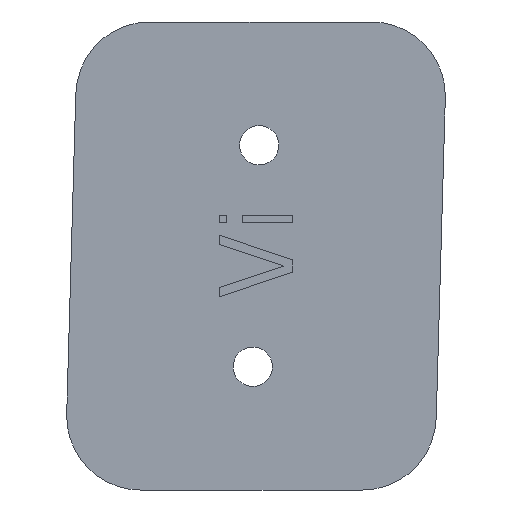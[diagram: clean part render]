
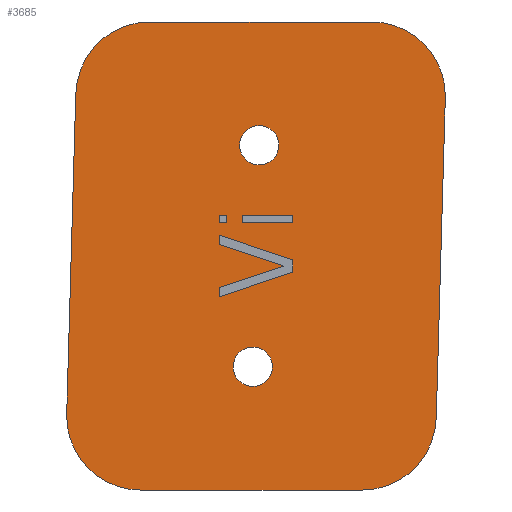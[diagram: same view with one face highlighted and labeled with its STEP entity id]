
A CAD part, front view. The second image highlights one B-rep face of the part: STEP entity #3685.
In plain terms, the highlighted planar face has unit normal (0, -1, 0).
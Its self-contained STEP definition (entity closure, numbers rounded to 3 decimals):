
#1076=DIRECTION('',(-0.028,0.,-1.));
#1077=VECTOR('',#1076,26.01);
#1078=CARTESIAN_POINT('',(-14.633,-22.25,13.17));
#1079=LINE('',#1078,#1077);
#1080=CARTESIAN_POINT('',(-8.635,-22.25,13.));
#1081=DIRECTION('',(0.,-1.,0.));
#1082=DIRECTION('',(0.,0.,1.));
#1083=AXIS2_PLACEMENT_3D('',#1080,#1081,#1082);
#1085=DIRECTION('',(-1.,0.,0.));
#1086=VECTOR('',#1085,18.007);
#1087=CARTESIAN_POINT('',(9.372,-22.25,19.));
#1088=LINE('',#1087,#1086);
#1089=CARTESIAN_POINT('',(9.372,-22.25,13.));
#1090=DIRECTION('',(0.,-1.,0.));
#1091=DIRECTION('',(1.,0.,-0.028));
#1092=AXIS2_PLACEMENT_3D('',#1089,#1090,#1091);
#1094=DIRECTION('',(0.028,0.,1.));
#1095=VECTOR('',#1094,26.01);
#1096=CARTESIAN_POINT('',(14.633,-22.25,-13.17));
#1097=LINE('',#1096,#1095);
#1098=CARTESIAN_POINT('',(8.635,-22.25,-13.));
#1099=DIRECTION('',(0.,-1.,0.));
#1100=DIRECTION('',(0.,0.,-1.));
#1101=AXIS2_PLACEMENT_3D('',#1098,#1099,#1100);
#1103=DIRECTION('',(1.,0.,0.));
#1104=VECTOR('',#1103,18.007);
#1105=CARTESIAN_POINT('',(-9.372,-22.25,-19.));
#1106=LINE('',#1105,#1104);
#1107=CARTESIAN_POINT('',(-9.372,-22.25,-13.));
#1108=DIRECTION('',(0.,-1.,0.));
#1109=DIRECTION('',(-1.,0.,0.028));
#1110=AXIS2_PLACEMENT_3D('',#1107,#1108,#1109);
#1112=CARTESIAN_POINT('',(-0.255,-22.25,-8.996));
#1113=DIRECTION('',(0.,-1.,0.));
#1114=DIRECTION('',(1.,0.,0.));
#1115=AXIS2_PLACEMENT_3D('',#1112,#1113,#1114);
#1117=CARTESIAN_POINT('',(-0.255,-22.25,-8.996));
#1118=DIRECTION('',(0.,-1.,0.));
#1119=DIRECTION('',(-1.,0.,0.));
#1120=AXIS2_PLACEMENT_3D('',#1117,#1118,#1119);
#1122=CARTESIAN_POINT('',(0.255,-22.25,8.996));
#1123=DIRECTION('',(0.,-1.,0.));
#1124=DIRECTION('',(1.,0.,0.));
#1125=AXIS2_PLACEMENT_3D('',#1122,#1123,#1124);
#1127=CARTESIAN_POINT('',(0.255,-22.25,8.996));
#1128=DIRECTION('',(0.,-1.,0.));
#1129=DIRECTION('',(-1.,0.,0.));
#1130=AXIS2_PLACEMENT_3D('',#1127,#1128,#1129);
#1132=DIRECTION('',(-0.948,0.,-0.317));
#1133=VECTOR('',#1132,5.519);
#1134=CARTESIAN_POINT('',(2.234,-22.25,-0.813));
#1135=LINE('',#1134,#1133);
#1136=DIRECTION('',(0.,0.,-1.));
#1137=VECTOR('',#1136,0.75);
#1138=CARTESIAN_POINT('',(-3.,-22.25,-2.563));
#1139=LINE('',#1138,#1137);
#1140=DIRECTION('',(0.949,0.,0.316));
#1141=VECTOR('',#1140,6.325);
#1142=CARTESIAN_POINT('',(-3.,-22.25,-3.313));
#1143=LINE('',#1142,#1141);
#1144=DIRECTION('',(0.,0.,1.));
#1145=VECTOR('',#1144,1.);
#1146=CARTESIAN_POINT('',(3.,-22.25,-1.312));
#1147=LINE('',#1146,#1145);
#1148=DIRECTION('',(-0.949,0.,0.316));
#1149=VECTOR('',#1148,6.325);
#1150=CARTESIAN_POINT('',(3.,-22.25,-0.313));
#1151=LINE('',#1150,#1149);
#1152=DIRECTION('',(0.,0.,-1.));
#1153=VECTOR('',#1152,0.75);
#1154=CARTESIAN_POINT('',(-3.,-22.25,1.687));
#1155=LINE('',#1154,#1153);
#1156=DIRECTION('',(0.948,0.,-0.317));
#1157=VECTOR('',#1156,5.519);
#1158=CARTESIAN_POINT('',(-3.,-22.25,0.937));
#1159=LINE('',#1158,#1157);
#1160=DIRECTION('',(-1.,0.,0.));
#1161=VECTOR('',#1160,4.085);
#1162=CARTESIAN_POINT('',(3.,-22.25,3.312));
#1163=LINE('',#1162,#1161);
#1164=DIRECTION('',(0.,0.,-1.));
#1165=VECTOR('',#1164,0.625);
#1166=CARTESIAN_POINT('',(-1.085,-22.25,3.312));
#1167=LINE('',#1166,#1165);
#1168=DIRECTION('',(1.,0.,0.));
#1169=VECTOR('',#1168,4.085);
#1170=CARTESIAN_POINT('',(-1.085,-22.25,2.688));
#1171=LINE('',#1170,#1169);
#1172=DIRECTION('',(0.,0.,1.));
#1173=VECTOR('',#1172,0.625);
#1174=CARTESIAN_POINT('',(3.,-22.25,2.688));
#1175=LINE('',#1174,#1173);
#1176=DIRECTION('',(-1.,0.,0.));
#1177=VECTOR('',#1176,0.638);
#1178=CARTESIAN_POINT('',(-2.362,-22.25,3.312));
#1179=LINE('',#1178,#1177);
#1180=DIRECTION('',(0.,0.,-1.));
#1181=VECTOR('',#1180,0.625);
#1182=CARTESIAN_POINT('',(-3.,-22.25,3.312));
#1183=LINE('',#1182,#1181);
#1184=DIRECTION('',(1.,0.,0.));
#1185=VECTOR('',#1184,0.638);
#1186=CARTESIAN_POINT('',(-3.,-22.25,2.688));
#1187=LINE('',#1186,#1185);
#1188=DIRECTION('',(0.,0.,1.));
#1189=VECTOR('',#1188,0.625);
#1190=CARTESIAN_POINT('',(-2.362,-22.25,2.688));
#1191=LINE('',#1190,#1189);
#1521=CARTESIAN_POINT('',(2.234,-22.25,-0.813));
#1522=CARTESIAN_POINT('',(-3.,-22.25,-2.563));
#1523=VERTEX_POINT('',#1521);
#1524=VERTEX_POINT('',#1522);
#1525=CARTESIAN_POINT('',(-3.,-22.25,-3.313));
#1526=VERTEX_POINT('',#1525);
#1527=CARTESIAN_POINT('',(3.,-22.25,-1.312));
#1528=VERTEX_POINT('',#1527);
#1529=CARTESIAN_POINT('',(3.,-22.25,-0.313));
#1530=VERTEX_POINT('',#1529);
#1539=CARTESIAN_POINT('',(3.,-22.25,3.312));
#1540=CARTESIAN_POINT('',(-1.085,-22.25,3.312));
#1541=VERTEX_POINT('',#1539);
#1542=VERTEX_POINT('',#1540);
#1543=CARTESIAN_POINT('',(-1.085,-22.25,2.688));
#1544=VERTEX_POINT('',#1543);
#1545=CARTESIAN_POINT('',(3.,-22.25,2.688));
#1546=VERTEX_POINT('',#1545);
#1547=CARTESIAN_POINT('',(1.345,-22.25,-8.996));
#1548=CARTESIAN_POINT('',(-1.855,-22.25,-8.996));
#1549=VERTEX_POINT('',#1547);
#1550=VERTEX_POINT('',#1548);
#1559=CARTESIAN_POINT('',(1.855,-22.25,8.996));
#1560=CARTESIAN_POINT('',(-1.345,-22.25,8.996));
#1561=VERTEX_POINT('',#1559);
#1562=VERTEX_POINT('',#1560);
#1675=CARTESIAN_POINT('',(-3.,-22.25,1.687));
#1676=VERTEX_POINT('',#1675);
#1677=CARTESIAN_POINT('',(-3.,-22.25,0.937));
#1678=VERTEX_POINT('',#1677);
#1679=CARTESIAN_POINT('',(-2.362,-22.25,3.312));
#1680=CARTESIAN_POINT('',(-3.,-22.25,3.312));
#1681=VERTEX_POINT('',#1679);
#1682=VERTEX_POINT('',#1680);
#1683=CARTESIAN_POINT('',(-3.,-22.25,2.688));
#1684=VERTEX_POINT('',#1683);
#1685=CARTESIAN_POINT('',(-2.362,-22.25,2.688));
#1686=VERTEX_POINT('',#1685);
#1687=CARTESIAN_POINT('',(-14.633,-22.25,13.17));
#1688=CARTESIAN_POINT('',(-15.37,-22.25,-12.83));
#1689=VERTEX_POINT('',#1687);
#1690=VERTEX_POINT('',#1688);
#1691=CARTESIAN_POINT('',(-9.372,-22.25,-19.));
#1692=VERTEX_POINT('',#1691);
#1693=CARTESIAN_POINT('',(8.635,-22.25,-19.));
#1694=VERTEX_POINT('',#1693);
#1695=CARTESIAN_POINT('',(14.633,-22.25,-13.17));
#1696=VERTEX_POINT('',#1695);
#1697=CARTESIAN_POINT('',(15.37,-22.25,12.83));
#1698=VERTEX_POINT('',#1697);
#1699=CARTESIAN_POINT('',(9.372,-22.25,19.));
#1700=VERTEX_POINT('',#1699);
#1701=CARTESIAN_POINT('',(-8.635,-22.25,19.));
#1702=VERTEX_POINT('',#1701);
#3615=CARTESIAN_POINT('',(0.,-22.25,0.));
#3616=DIRECTION('',(0.,1.,0.));
#3617=DIRECTION('',(0.,0.,1.));
#3618=AXIS2_PLACEMENT_3D('',#3615,#3616,#3617);
#3619=PLANE('',#3618);
#3620=ORIENTED_EDGE('',*,*,#3605,.F.);
#3622=ORIENTED_EDGE('',*,*,#3621,.F.);
#3624=ORIENTED_EDGE('',*,*,#3623,.F.);
#3626=ORIENTED_EDGE('',*,*,#3625,.F.);
#3628=ORIENTED_EDGE('',*,*,#3627,.F.);
#3630=ORIENTED_EDGE('',*,*,#3629,.F.);
#3632=ORIENTED_EDGE('',*,*,#3631,.F.);
#3634=ORIENTED_EDGE('',*,*,#3633,.F.);
#3635=EDGE_LOOP('',(#3620,#3622,#3624,#3626,#3628,#3630,#3632,#3634));
#3636=FACE_OUTER_BOUND('',#3635,.F.);
#3638=ORIENTED_EDGE('',*,*,#3637,.T.);
#3640=ORIENTED_EDGE('',*,*,#3639,.T.);
#3641=EDGE_LOOP('',(#3638,#3640));
#3642=FACE_BOUND('',#3641,.F.);
#3644=ORIENTED_EDGE('',*,*,#3643,.T.);
#3646=ORIENTED_EDGE('',*,*,#3645,.T.);
#3647=EDGE_LOOP('',(#3644,#3646));
#3648=FACE_BOUND('',#3647,.F.);
#3650=ORIENTED_EDGE('',*,*,#3649,.T.);
#3652=ORIENTED_EDGE('',*,*,#3651,.T.);
#3654=ORIENTED_EDGE('',*,*,#3653,.T.);
#3656=ORIENTED_EDGE('',*,*,#3655,.T.);
#3658=ORIENTED_EDGE('',*,*,#3657,.T.);
#3660=ORIENTED_EDGE('',*,*,#3659,.T.);
#3662=ORIENTED_EDGE('',*,*,#3661,.T.);
#3663=EDGE_LOOP('',(#3650,#3652,#3654,#3656,#3658,#3660,#3662));
#3664=FACE_BOUND('',#3663,.F.);
#3666=ORIENTED_EDGE('',*,*,#3665,.T.);
#3668=ORIENTED_EDGE('',*,*,#3667,.T.);
#3670=ORIENTED_EDGE('',*,*,#3669,.T.);
#3672=ORIENTED_EDGE('',*,*,#3671,.T.);
#3673=EDGE_LOOP('',(#3666,#3668,#3670,#3672));
#3674=FACE_BOUND('',#3673,.F.);
#3676=ORIENTED_EDGE('',*,*,#3675,.T.);
#3678=ORIENTED_EDGE('',*,*,#3677,.T.);
#3680=ORIENTED_EDGE('',*,*,#3679,.T.);
#3682=ORIENTED_EDGE('',*,*,#3681,.T.);
#3683=EDGE_LOOP('',(#3676,#3678,#3680,#3682));
#3684=FACE_BOUND('',#3683,.F.);
#3685=ADVANCED_FACE('',(#3636,#3642,#3648,#3664,#3674,#3684),#3619,.F.);
#1084=CIRCLE('',#1083,6.);
#1093=CIRCLE('',#1092,6.);
#1102=CIRCLE('',#1101,6.);
#1111=CIRCLE('',#1110,6.);
#1116=CIRCLE('',#1115,1.6);
#1121=CIRCLE('',#1120,1.6);
#1126=CIRCLE('',#1125,1.6);
#1131=CIRCLE('',#1130,1.6);
#3605=EDGE_CURVE('',#1689,#1690,#1079,.T.);
#3621=EDGE_CURVE('',#1702,#1689,#1084,.T.);
#3623=EDGE_CURVE('',#1700,#1702,#1088,.T.);
#3625=EDGE_CURVE('',#1698,#1700,#1093,.T.);
#3627=EDGE_CURVE('',#1696,#1698,#1097,.T.);
#3629=EDGE_CURVE('',#1694,#1696,#1102,.T.);
#3631=EDGE_CURVE('',#1692,#1694,#1106,.T.);
#3633=EDGE_CURVE('',#1690,#1692,#1111,.T.);
#3637=EDGE_CURVE('',#1549,#1550,#1116,.T.);
#3639=EDGE_CURVE('',#1550,#1549,#1121,.T.);
#3643=EDGE_CURVE('',#1561,#1562,#1126,.T.);
#3645=EDGE_CURVE('',#1562,#1561,#1131,.T.);
#3649=EDGE_CURVE('',#1523,#1524,#1135,.T.);
#3651=EDGE_CURVE('',#1524,#1526,#1139,.T.);
#3653=EDGE_CURVE('',#1526,#1528,#1143,.T.);
#3655=EDGE_CURVE('',#1528,#1530,#1147,.T.);
#3657=EDGE_CURVE('',#1530,#1676,#1151,.T.);
#3659=EDGE_CURVE('',#1676,#1678,#1155,.T.);
#3661=EDGE_CURVE('',#1678,#1523,#1159,.T.);
#3665=EDGE_CURVE('',#1541,#1542,#1163,.T.);
#3667=EDGE_CURVE('',#1542,#1544,#1167,.T.);
#3669=EDGE_CURVE('',#1544,#1546,#1171,.T.);
#3671=EDGE_CURVE('',#1546,#1541,#1175,.T.);
#3675=EDGE_CURVE('',#1681,#1682,#1179,.T.);
#3677=EDGE_CURVE('',#1682,#1684,#1183,.T.);
#3679=EDGE_CURVE('',#1684,#1686,#1187,.T.);
#3681=EDGE_CURVE('',#1686,#1681,#1191,.T.);
